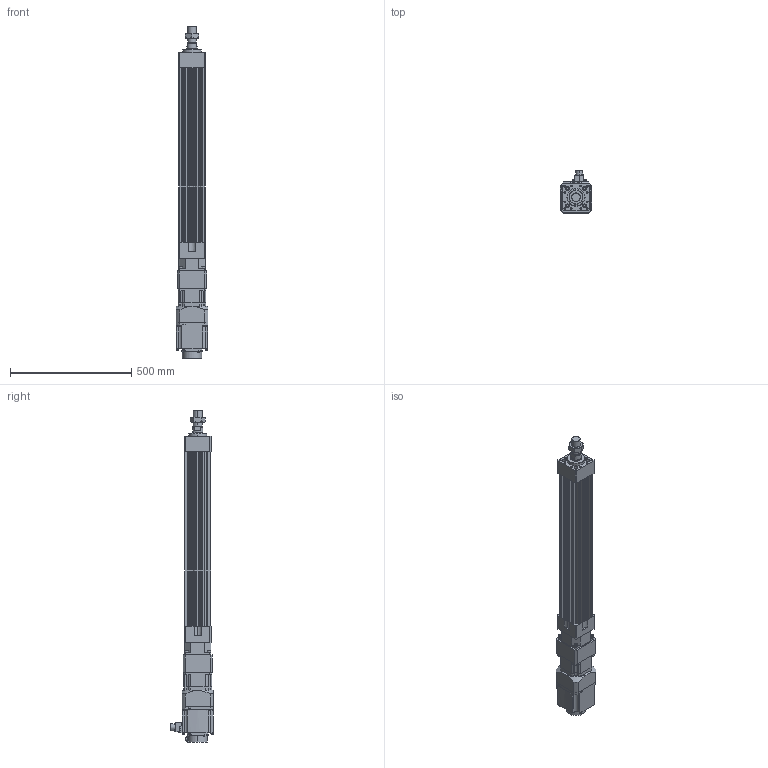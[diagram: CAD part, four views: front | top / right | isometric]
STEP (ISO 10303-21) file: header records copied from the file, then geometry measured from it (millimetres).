
FILE_DESCRIPTION (( 'STEP AP203' ), '1' );
FILE_NAME ('HES110NS(HS)-S550-W015G00-M.STEP', '2023-01-27T10:58:15', ( 'tms' ), ( '' ), 'SwSTEP 2.0', 'SolidWorks 2013', '' );
FILE_SCHEMA (( 'CONFIG_CONTROL_DESIGN' ));
Length unit declared in the file: millimetre
Products named in the file (8): M36X1.5P; HES110 ROD M ST550; HG-SR152; P0401400706; AB1151; AB115-003[HG-SR152]; HES110-S550-G120; HES110NS(HS)-S550-W015G00-M
Assembly tree (7 placements, depth 3):
  HES110NS(HS)-S550-W015G00-M
    HES110-S550-G120
    HES110 ROD M ST550
    M36X1.5P
    AB115-003[HG-SR152]
      AB1151
      P0401400706
    HG-SR152
Bounding box: 130 x 177.49 x 1371.5 mm (x, y, z)
Volume: 8697282.8 mm3; surface area: 1232742.7 mm2
Topology: 4 solids, 15 shells, 1202 faces, 3026 edges, 1951 vertices
Faces by surface type: plane 551, cylinder 537, cone 102, bspline 8, torus 4
Entity records: 37654 total; most frequent: CARTESIAN_POINT 7134, DIRECTION 6533, ORIENTED_EDGE 5960, EDGE_CURVE 2990, AXIS2_PLACEMENT_3D 2410, VERTEX_POINT 1951, VECTOR 1713, LINE 1713
